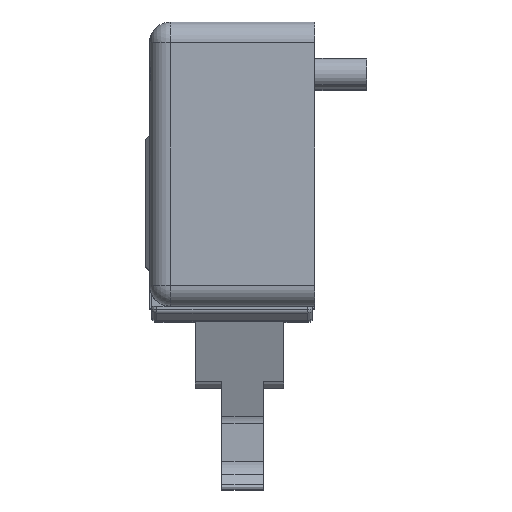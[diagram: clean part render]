
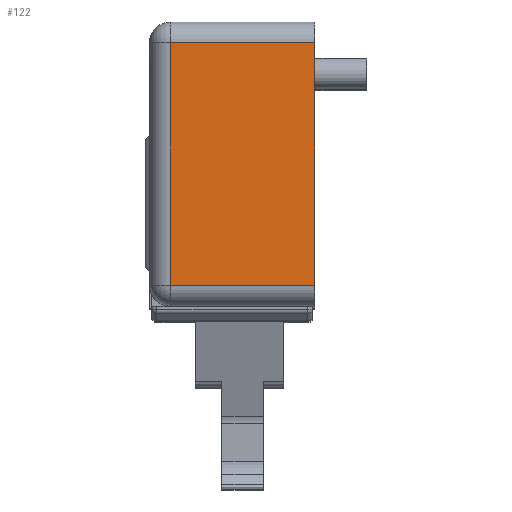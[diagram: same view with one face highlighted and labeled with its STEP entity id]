
A CAD part, top view. The second image highlights one B-rep face of the part: STEP entity #122.
In plain terms, the highlighted planar face has unit normal (0, 0, 1).
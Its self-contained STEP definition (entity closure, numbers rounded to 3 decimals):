
#122=ADVANCED_FACE('',(#544),#543,.T.);
#543=PLANE('',#3779);
#544=FACE_OUTER_BOUND('',#3780,.T.);
#3776=CARTESIAN_POINT('',(-15.4,-35.35,62.2));
#3777=DIRECTION('',(0.,0.,1.));
#3778=DIRECTION('',(1.,0.,0.));
#3779=AXIS2_PLACEMENT_3D('',#3776,#3777,#3778);
#3780=EDGE_LOOP('',(#5561,#5562,#5563,#5564));
#5561=ORIENTED_EDGE('',*,*,#7424,.F.);
#5562=ORIENTED_EDGE('',*,*,#7362,.T.);
#5563=ORIENTED_EDGE('',*,*,#7422,.T.);
#5564=ORIENTED_EDGE('',*,*,#7425,.F.);
#7362=EDGE_CURVE('',#8371,#8364,#8372,.T.);
#7422=EDGE_CURVE('',#8364,#8783,#8784,.T.);
#7424=EDGE_CURVE('',#8371,#8796,#8797,.T.);
#7425=EDGE_CURVE('',#8796,#8783,#8803,.T.);
#8364=VERTEX_POINT('',#14581);
#8371=VERTEX_POINT('',#14586);
#8372=LINE('',#14587,#14588);
#8783=VERTEX_POINT('',#14833);
#8784=LINE('',#14834,#14835);
#8796=VERTEX_POINT('',#14841);
#8797=LINE('',#14842,#14843);
#8803=LINE('',#14845,#14846);
#14581=CARTESIAN_POINT('',(-14.,-33.,62.2));
#14586=CARTESIAN_POINT('',(-14.,-9.5,62.2));
#14587=CARTESIAN_POINT('',(-14.,-9.5,62.2));
#14588=VECTOR('',#14589,23.5);
#14589=DIRECTION('',(0.,-1.,0.));
#14833=CARTESIAN_POINT('',(0.,-33.,62.2));
#14834=CARTESIAN_POINT('',(-14.,-33.,62.2));
#14835=VECTOR('',#14836,14.);
#14836=DIRECTION('',(1.,0.,0.));
#14841=CARTESIAN_POINT('',(0.,-9.5,62.2));
#14842=CARTESIAN_POINT('',(-14.,-9.5,62.2));
#14843=VECTOR('',#14844,14.);
#14844=DIRECTION('',(1.,0.,0.));
#14845=CARTESIAN_POINT('',(0.,-9.5,62.2));
#14846=VECTOR('',#14847,23.5);
#14847=DIRECTION('',(0.,-1.,0.));
